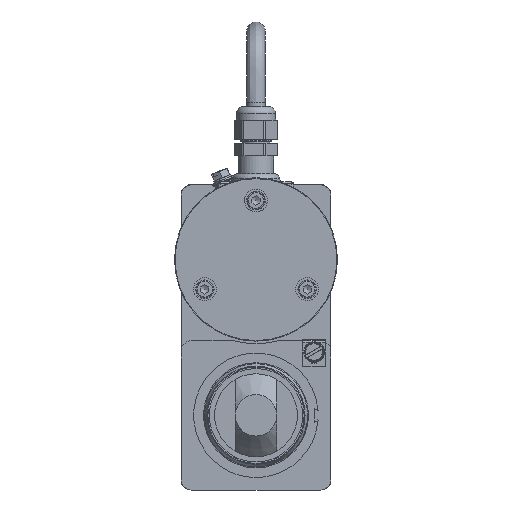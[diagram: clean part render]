
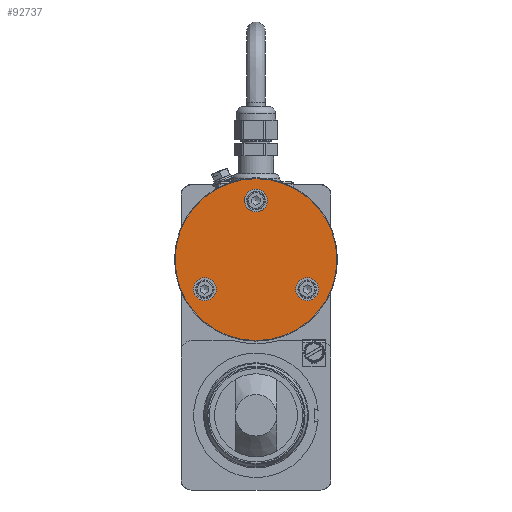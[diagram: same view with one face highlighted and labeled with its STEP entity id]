
A CAD part, front view. The second image highlights one B-rep face of the part: STEP entity #92737.
In plain terms, the highlighted planar face has unit normal (0, -1, 0).
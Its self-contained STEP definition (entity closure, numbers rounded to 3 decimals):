
#14733=PLANE('',#96899);
#21849=ORIENTED_EDGE('',*,*,#41246,.F.);
#21850=ORIENTED_EDGE('',*,*,#41247,.F.);
#21851=ORIENTED_EDGE('',*,*,#41248,.F.);
#21852=ORIENTED_EDGE('',*,*,#41244,.F.);
#41244=EDGE_CURVE('',#51327,#51327,#57625,.T.);
#41246=EDGE_CURVE('',#51329,#51329,#57627,.F.);
#41247=EDGE_CURVE('',#51330,#51330,#57628,.F.);
#41248=EDGE_CURVE('',#51331,#51331,#57629,.F.);
#51327=VERTEX_POINT('',#128363);
#51329=VERTEX_POINT('',#128369);
#51330=VERTEX_POINT('',#128371);
#51331=VERTEX_POINT('',#128373);
#57625=CIRCLE('',#96896,39.);
#57627=CIRCLE('',#96900,5.5);
#57628=CIRCLE('',#96901,5.5);
#57629=CIRCLE('',#96902,5.5);
#61385=EDGE_LOOP('',(#21849));
#61386=EDGE_LOOP('',(#21850));
#61387=EDGE_LOOP('',(#21851));
#61388=EDGE_LOOP('',(#21852));
#65348=FACE_BOUND('',#61385,.T.);
#65349=FACE_BOUND('',#61386,.T.);
#65350=FACE_BOUND('',#61387,.T.);
#65351=FACE_BOUND('',#61388,.T.);
#92737=ADVANCED_FACE('',(#65348,#65349,#65350,#65351),#14733,.F.);
#96896=AXIS2_PLACEMENT_3D('',#128362,#106925,#106926);
#96899=AXIS2_PLACEMENT_3D('',#128367,#106931,#106932);
#96900=AXIS2_PLACEMENT_3D('',#128368,#106933,#106934);
#96901=AXIS2_PLACEMENT_3D('',#128370,#106935,#106936);
#96902=AXIS2_PLACEMENT_3D('',#128372,#106937,#106938);
#106925=DIRECTION('',(0.,1.,0.));
#106926=DIRECTION('',(1.,0.,0.));
#106931=DIRECTION('',(0.,1.,0.));
#106932=DIRECTION('',(0.,0.,1.));
#106933=DIRECTION('',(0.,1.,0.));
#106934=DIRECTION('',(0.,0.,1.));
#106935=DIRECTION('',(0.,1.,0.));
#106936=DIRECTION('',(0.,0.,1.));
#106937=DIRECTION('',(0.,1.,0.));
#106938=DIRECTION('',(0.,0.,1.));
#128362=CARTESIAN_POINT('',(0.,0.,0.));
#128363=CARTESIAN_POINT('',(39.,0.,0.));
#128367=CARTESIAN_POINT('',(0.,0.,0.));
#128368=CARTESIAN_POINT('',(0.,0.,28.5));
#128369=CARTESIAN_POINT('',(0.,0.,34.));
#128370=CARTESIAN_POINT('',(-24.682,0.,-14.25));
#128371=CARTESIAN_POINT('',(-24.682,0.,-8.75));
#128372=CARTESIAN_POINT('',(24.682,0.,-14.25));
#128373=CARTESIAN_POINT('',(24.682,0.,-8.75));
